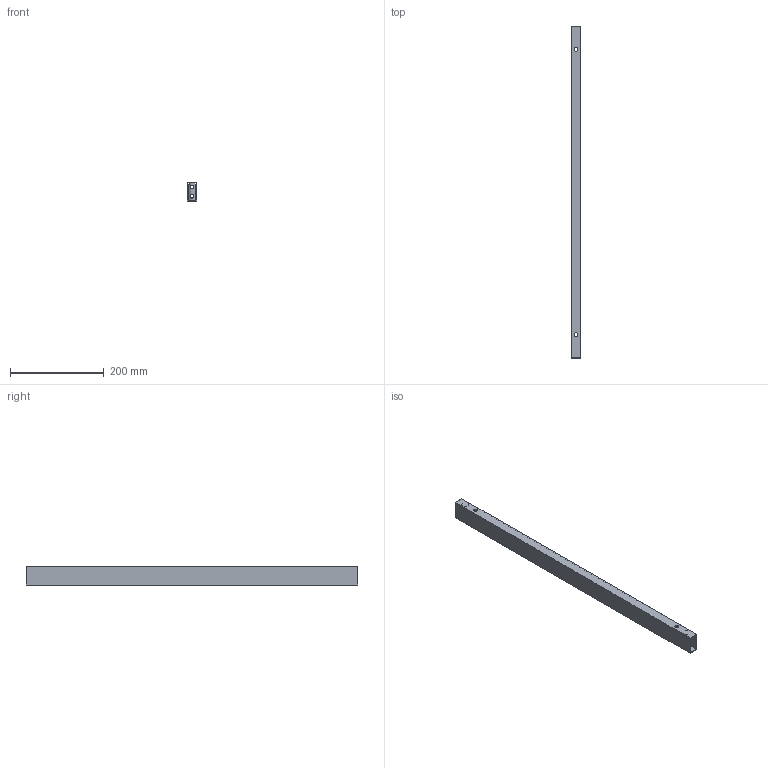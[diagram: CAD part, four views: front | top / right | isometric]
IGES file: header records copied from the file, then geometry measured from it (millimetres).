
Start section: Data from Parasolid IGES Translator 20.0.26, Copyright(c) 2006 Siemens P LM Software. All Rights Reserved.
Global section: file name: 46009.igs; native system: By Siemens PLM Incorporated; preprocessor: XPlus GENERIC/IGES 20.0.26; author: Noname; organization: Noname; date: 20210125.173158; units: millimetre
Bounding box: 20 x 710 x 41.5 mm (x, y, z)
Surface area: 165693.7 mm2 (no closed solid volume)
Topology: 0 solids, 0 shells, 24 faces, 120 edges, 100 vertices
Faces by surface type: revolution 12, extrusion 12
